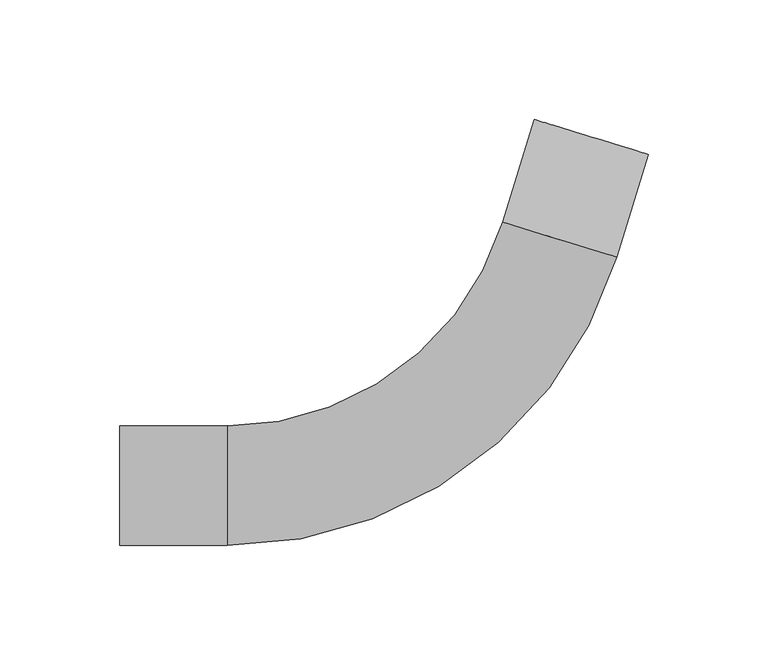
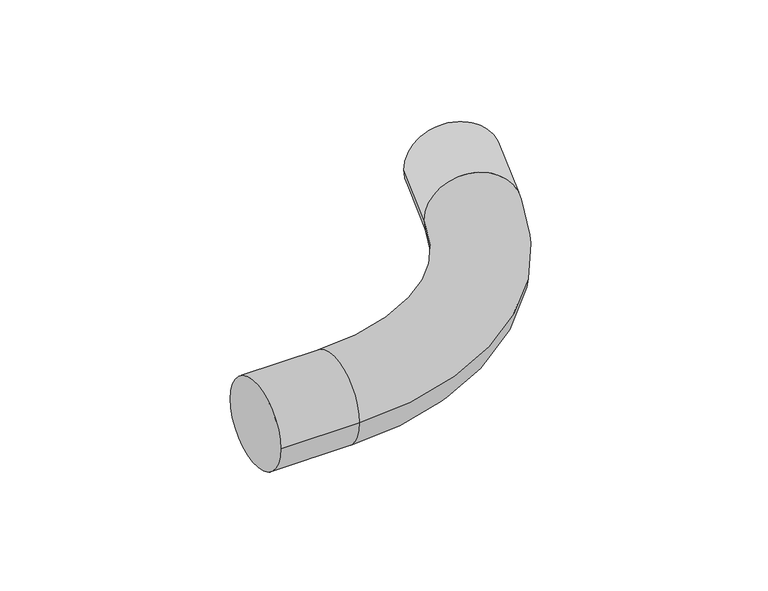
"""IFC4 building model written with IfcOpenShell, lengths in millimetres: cable carrier fitting geometry, Трубы гофрированные двустенные ПНД-ПВД : Трубы гофрированные двустенные ПНД-ПВД."""

from ifc_helpers import new_model, si_unit, point, frame, origin, place, context, project, spatial, circle_curve, ellipse_curve, trimmed, source, transform, mapped, element, save
from ifc_brep_helpers import plane_surface, cylinder_surface, revolved_surface, advanced_brep


def cable_carrier_fitting_55c0d0ea(model_context):
    return source(origin(), model_context, "Body", "AdvancedBrep", [
        advanced_brep(
        [(-152.6412248, -24.9936, 0.0), (-152.6412248, 24.9936, 0.0), (-107.6578248, -24.9936, 0.0), (-107.6578248, 24.9936, 0.0), (7.5746032, 110.2611113, 0.0), (55.3776003, 95.6462684, 0.0), (68.5294736, 138.6641078, 0.0), (20.7264765, 153.2789506, 0.0)],
        [
            (0, 1, circle_curve(frame((-152.6412248, 0.0, 0.0), z_axis=(-1.0, 0.0, 0.0), x_axis=(0.0, 1.0, 0.0)), 24.9936)),
            (1, 0, circle_curve(frame((-152.6412248, 0.0, 0.0), z_axis=(-1.0, 0.0, 0.0), x_axis=(0.0, 1.0, 0.0)), 24.9936)),
            (0, 2),
            (2, 3, circle_curve(frame((-107.6578248, 0.0, 0.0), z_axis=(-1.0, 0.0, 0.0), x_axis=(0.0, 1.0, 0.0)), 24.9936)),
            (3, 1),
            (3, 2, circle_curve(frame((-107.6578248, 0.0, 0.0), z_axis=(-1.0, 0.0, 0.0), x_axis=(0.0, 1.0, 0.0)), 24.9936)),
            (4, 3, circle_curve(frame((-107.6578248, 145.4912, 0.0), z_axis=(0.0, 0.0, -1.0), x_axis=(0.0, -1.0, 0.0)), 120.4976)),
            (2, 5, circle_curve(frame((-107.6578248, 145.4912, 0.0), z_axis=(0.0, 0.0, 1.0), x_axis=(0.0, -1.0, 0.0)), 170.4848)),
            (5, 4, circle_curve(frame((31.4761018, 102.9536898, 0.0), z_axis=(-0.2923717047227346, -0.9563047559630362, 0.0), x_axis=(-0.9563047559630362, 0.2923717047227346, 0.0)), 24.9936)),
            (4, 5, circle_curve(frame((31.4761018, 102.9536898, 0.0), z_axis=(-0.2923717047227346, -0.9563047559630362, 0.0), x_axis=(-0.9563047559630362, 0.2923717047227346, 0.0)), 24.9936)),
            (6, 7, circle_curve(frame((44.6279751, 145.9715292, 0.0), z_axis=(0.2923717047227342, 0.9563047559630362, 0.0), x_axis=(-0.9563047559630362, 0.2923717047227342, 0.0)), 24.9936)),
            (7, 6, circle_curve(frame((44.6279751, 145.9715292, 0.0), z_axis=(0.2923717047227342, 0.9563047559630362, 0.0), x_axis=(-0.9563047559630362, 0.2923717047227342, 0.0)), 24.9936)),
            (5, 6),
            (7, 4),
        ],
        [
            plane_surface(frame((-152.6412248, 0.0, 0.0), z_axis=(-1.0, 0.0, 0.0), x_axis=(0.0, 0.0, 1.0))),
            cylinder_surface(frame((-152.6412248, 0.0, 0.0), z_axis=(-1.0, 0.0, 0.0), x_axis=(0.0, 1.0, 0.0)), 24.9936),
            revolved_surface(trimmed(ellipse_curve(frame((-107.6578248, 0.0, 0.0), z_axis=(-1.0, 0.0, 0.0), x_axis=(0.0, 1.0, 0.0)), 24.9936, 24.9936), [point((-107.6578248, -24.9936, 0.0))], [point((-107.6578248, 24.9936, 0.0))], True, "CARTESIAN"), (-107.6578248, 145.4912, 0.0), (0.0, 0.0, 1.0)),
            revolved_surface(trimmed(ellipse_curve(frame((-107.6578248, 0.0, 0.0), z_axis=(-1.0, 0.0, 0.0), x_axis=(0.0, 1.0, 0.0)), 24.9936, 24.9936), [point((-107.6578248, 24.9936, 0.0))], [point((-107.6578248, -24.9936, 0.0))], True, "CARTESIAN"), (-107.6578248, 145.4912, 0.0), (0.0, 0.0, 1.0)),
            plane_surface(frame((44.6279751, 145.9715292, 0.0), z_axis=(0.29237170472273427, 0.9563047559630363, 0.0), x_axis=(0.0, 0.0, 1.0))),
            cylinder_surface(frame((31.4761018, 102.9536898, 0.0), z_axis=(-0.2923717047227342, -0.9563047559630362, 0.0), x_axis=(-0.9563047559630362, 0.2923717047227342, 0.0)), 24.9936),
        ],
        [
            (0, [[1, 2]]),
            (1, [[-1, 3, 4, 5]]),
            (1, [[-2, -5, 6, -3]]),
            (2, [[7, -4, 8, 9]]),
            (3, [[-8, -6, -7, 10]]),
            (4, [[11, 12]]),
            (5, [[-9, 13, -12, 14]]),
            (5, [[-10, -14, -11, -13]]),
        ],
    ),
    ])


if __name__ == "__main__":
    model = new_model("IFC4")
    model_context = context("Model", 3, world=origin())
    ifc_project = project(units=[si_unit("LENGTHUNIT", "METRE", prefix="MILLI")], contexts=[model_context])
    site = spatial("IfcSite", under=ifc_project)
    building = spatial("IfcBuilding", under=site)
    placement = place(None, origin())
    cable_carrier_fitting_shape = cable_carrier_fitting_55c0d0ea(model_context)
    element("IfcCableCarrierFitting", 1, ObjectType="Трубы гофрированные двустенные ПНД-ПВД : Трубы гофрированные двустенные ПНД-ПВД", at=placement, inside=building, context=model_context, shape_type="MappedRepresentation", body=[
        mapped(cable_carrier_fitting_shape, transform((0.0, 0.0, 0.0), x_axis=(1.0, 0.0, 0.0), y_axis=(0.0, 1.0, 0.0), z_axis=(0.0, 0.0, 1.0))),
    ])
    save(model, "model.ifc")
